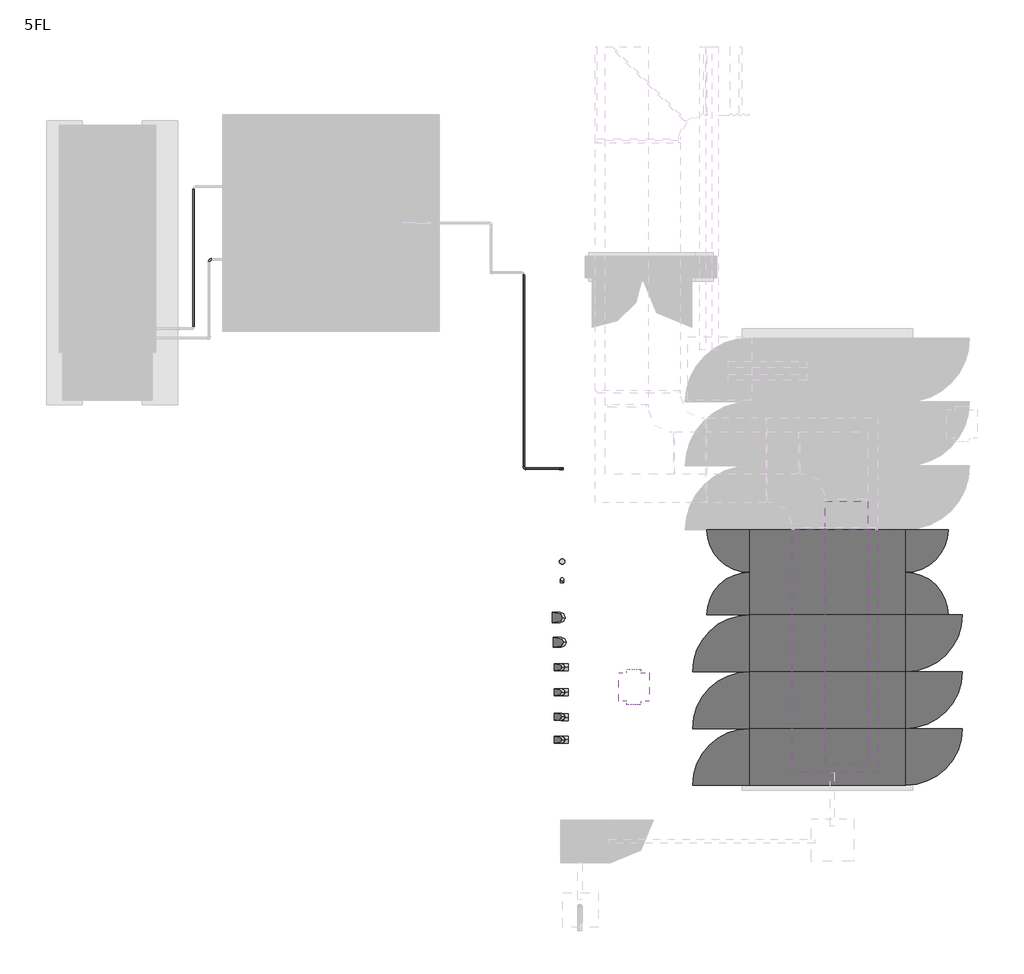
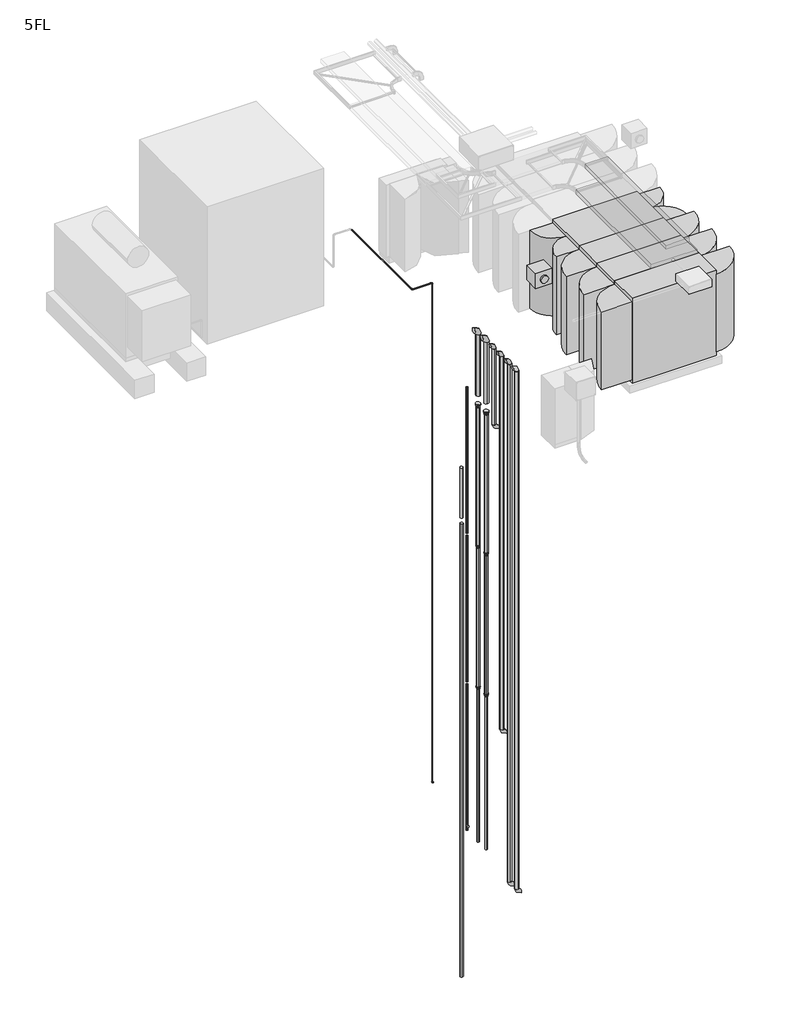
# One storey, part 2 of 3: 21 pipe fittings, 21 pipe segments, 4 proxies, 2 cable carrier segments, 1 unitary equipment element.
"""IFC4 building model written with IfcOpenShell, lengths in millimetres."""

from ifc_helpers import new_model, si_unit, point, frame, frame_2d, origin, place, context, project, spatial, polyline, circle_curve, trimmed, segment, composite_curve, outline, extrude, transform, mapped, element, save
from components import electrical_equipment_1f931304, electrical_equipment_307397fe, common_fe099fb8, common_de995b14, common_a5969855, common_364c500f, common_93091ae8, common_80912427, common_bebf707b, common_4825b033, common_ebbcb540, unitary_equipment_3_1500m3_h_19a96069

model = new_model("IFC4")

# Units and contexts
model_context = context("Model", 3, world=origin())
ifc_project = project(units=[si_unit("LENGTHUNIT", "METRE", prefix="MILLI")], contexts=[model_context])

# Site, building, storey
site = spatial("IfcSite", under=ifc_project)
building = spatial("IfcBuilding", under=site)
storey = spatial("IfcBuildingStorey", under=building, Name="5FL", Elevation=16400.0)

# Proxies
placement = place(None, origin())
electrical_equipment_shape = electrical_equipment_1f931304(model_context)
element("IfcBuildingElementProxy", 1, Name="30100_受変電設備_前後面保守形_コンデンサ盤 : 低圧コンデンサ盤", ObjectType="30100_受変電設備_前後面保守形_コンデンサ盤 : 低圧コンデンサ盤", at=placement, inside=storey, context=model_context, shape_type="MappedRepresentation", body=[
    mapped(electrical_equipment_shape, transform((29150.0424675, 10080.0, 16600.0), x_axis=(0.0, 1.0, 0.0), y_axis=(-1.0, 0.0, 0.0), z_axis=(0.0, 0.0, 1.0))),
])
element("IfcBuildingElementProxy", 2, Name="30400_受変電設備_前後面保守形_低圧電灯MCCB盤 : 6.6kV/210-105V", ObjectType="30400_受変電設備_前後面保守形_低圧電灯MCCB盤 : 6.6kV/210-105V", at=placement, inside=storey, context=model_context, shape_type="MappedRepresentation", body=[
    mapped(electrical_equipment_shape, transform((29150.0424675, 8480.0, 16600.0), x_axis=(0.0, 1.0, 0.0), y_axis=(-1.0, 0.0, 0.0), z_axis=(0.0, 0.0, 1.0))),
])
electrical_equipment_2_shape = electrical_equipment_307397fe(model_context)
element("IfcBuildingElementProxy", 3, Name="30400_受変電設備_前後面保守形_低圧動力盤_TR+MCCB : 6.6kV/210V_油入_150kVA", ObjectType="30400_受変電設備_前後面保守形_低圧動力盤_TR+MCCB : 6.6kV/210V_油入_150kVA", at=placement, inside=storey, context=model_context, shape_type="MappedRepresentation", body=[
    mapped(electrical_equipment_2_shape, transform((29150.0424675, 11080.0, 16600.0), x_axis=(0.0, 1.0, 0.0), y_axis=(-1.0, 0.0, 0.0), z_axis=(0.0, 0.0, 1.0))),
])
element("IfcBuildingElementProxy", 4, Name="30400_受変電設備_前後面保守形_低圧動力MCCB盤 : 6.6kV/210V", ObjectType="30400_受変電設備_前後面保守形_低圧動力MCCB盤 : 6.6kV/210V", at=placement, inside=storey, context=model_context, shape_type="MappedRepresentation", body=[
    mapped(electrical_equipment_shape, transform((29150.0424675, 9280.0, 16600.0), x_axis=(0.0, 1.0, 0.0), y_axis=(-1.0, 0.0, 0.0), z_axis=(0.0, 0.0, 1.0))),
])

# Cable carrier segments
element("IfcCableCarrierSegment", 5, ObjectType="03 強電_低圧", at=placement, inside=storey, context=model_context, shape_type="SweptSolid", body=[
    extrude(outline(polyline([(28657.1310514, 11676.820725), (29857.1310514, 11676.820725), (29857.1310514, 8260.0760728), (28657.1310514, 8260.0760728), (28657.1310514, 11676.820725)])), frame((0.0, 0.0, 19450.0), z_axis=(0.0, 0.0, 1.0), x_axis=(1.0, 0.0, 0.0)), (0.0, 0.0, 1.0), 100.0),
])
element("IfcCableCarrierSegment", 6, ObjectType="03 強電_低圧", at=placement, inside=storey, context=model_context, shape_type="SweptSolid", body=[
    extrude(outline(polyline([(29120.0, 12081.820725), (29720.0, 12081.820725), (29720.0, 8381.820725), (29120.0, 8381.820725), (29120.0, 12081.820725)])), frame((0.0, 0.0, 19750.0), z_axis=(0.0, 0.0, 1.0), x_axis=(1.0, 0.0, 0.0)), (0.0, 0.0, 1.0), 100.0),
])

# Pipe fittings
common_shape = common_fe099fb8(model_context)
element("IfcPipeFitting", 7, ObjectType="012_エルボ_冷媒管 : Common", at=placement, inside=storey, context=model_context, shape_type="MappedRepresentation", body=[
    mapped(common_shape, transform((25399.917665, 8722.3578511, 17600.0), x_axis=(0.0, 0.0, 1.0), y_axis=(-1.0, 0.0, 0.0), z_axis=(0.0, -1.0, 0.0))),
])
element("IfcPipeFitting", 8, ObjectType="012_エルボ_冷媒管 : Common", at=placement, inside=storey, context=model_context, shape_type="MappedRepresentation", body=[
    mapped(common_shape, transform((25399.917665, 9743.0325009, 17600.0), x_axis=(1.0, 0.0, 0.0), y_axis=(0.0, 0.0, -1.0), z_axis=(0.0, 1.0, 0.0))),
])
element("IfcPipeFitting", 9, ObjectType="012_エルボ_冷媒管 : Common", at=placement, inside=storey, context=model_context, shape_type="MappedRepresentation", body=[
    mapped(common_shape, transform((25399.917665, 9393.0325009, 17600.0), x_axis=(1.0, 0.0, 0.0), y_axis=(0.0, 0.0, -1.0), z_axis=(0.0, 1.0, 0.0))),
])
element("IfcPipeFitting", 10, ObjectType="012_エルボ_冷媒管 : Common", at=placement, inside=storey, context=model_context, shape_type="MappedRepresentation", body=[
    mapped(common_shape, transform((25399.917665, 8722.3578511, 3100.0001139), x_axis=(0.0, 0.0, -1.0), y_axis=(1.0, 0.0, 0.0), z_axis=(0.0, -1.0, 0.0))),
])
element("IfcPipeFitting", 11, ObjectType="012_エルボ_冷媒管 : Common", at=placement, inside=storey, context=model_context, shape_type="MappedRepresentation", body=[
    mapped(common_shape, transform((25399.917665, 9743.0325009, 15300.0), x_axis=(0.0, 0.0, -1.0), y_axis=(1.0, 0.0, 0.0), z_axis=(0.0, -1.0, 0.0))),
])
element("IfcPipeFitting", 12, ObjectType="012_エルボ_冷媒管 : Common", at=placement, inside=storey, context=model_context, shape_type="MappedRepresentation", body=[
    mapped(common_shape, transform((25399.917665, 9393.0325009, 7100.0), x_axis=(0.0, 0.0, -1.0), y_axis=(1.0, 0.0, 0.0), z_axis=(0.0, -1.0, 0.0))),
])
common_2_shape = common_de995b14(model_context)
element("IfcPipeFitting", 13, ObjectType="041_レジューサ : Common", at=placement, inside=storey, context=model_context, shape_type="MappedRepresentation", body=[
    mapped(common_2_shape, transform((25399.917665, 10093.0325009, 7750.0), x_axis=(0.0, 0.0, -1.0), y_axis=(0.0, 1.0, 0.0), z_axis=(1.0, 0.0, 0.0))),
])
element("IfcPipeFitting", 14, ObjectType="041_レジューサ : Common", at=placement, inside=storey, context=model_context, shape_type="MappedRepresentation", body=[
    mapped(common_2_shape, transform((25387.5087141, 10443.0325009, 7750.0), x_axis=(0.0, 0.0, -1.0), y_axis=(0.0, 1.0, 0.0), z_axis=(1.0, 0.0, 0.0))),
])
common_3_shape = common_a5969855(model_context)
element("IfcPipeFitting", 15, ObjectType="011_エルボ : Common", at=placement, inside=storey, context=model_context, shape_type="MappedRepresentation", body=[
    mapped(common_3_shape, transform((25399.917665, 10093.0325009, 17600.0), x_axis=(1.0, 0.0, 0.0), y_axis=(0.0, 0.0, -1.0), z_axis=(0.0, 1.0, 0.0))),
])
element("IfcPipeFitting", 16, ObjectType="011_エルボ : Common", at=placement, inside=storey, context=model_context, shape_type="MappedRepresentation", body=[
    mapped(common_3_shape, transform((25387.5087141, 10443.0325009, 17600.0), x_axis=(1.0, 0.0, 0.0), y_axis=(0.0, 0.0, -1.0), z_axis=(0.0, 1.0, 0.0))),
])
common_4_shape = common_364c500f(model_context)
element("IfcPipeFitting", 17, ObjectType="041_レジューサ : Common", at=placement, inside=storey, context=model_context, shape_type="MappedRepresentation", body=[
    mapped(common_4_shape, transform((25399.917665, 10093.0325009, 11650.0), x_axis=(0.0, 0.0, -1.0), y_axis=(0.0, 1.0, 0.0), z_axis=(1.0, 0.0, 0.0))),
])
element("IfcPipeFitting", 18, ObjectType="041_レジューサ : Common", at=placement, inside=storey, context=model_context, shape_type="MappedRepresentation", body=[
    mapped(common_4_shape, transform((25387.5087141, 10443.0325009, 11650.0), x_axis=(0.0, 0.0, -1.0), y_axis=(0.0, 1.0, 0.0), z_axis=(1.0, 0.0, 0.0))),
])
common_5_shape = common_93091ae8(model_context)
element("IfcPipeFitting", 19, ObjectType="041_レジューサ : Common", at=placement, inside=storey, context=model_context, shape_type="MappedRepresentation", body=[
    mapped(common_5_shape, transform((25399.917665, 10093.0325009, 15550.0), x_axis=(0.0, 0.0, -1.0), y_axis=(0.0, 1.0, 0.0), z_axis=(1.0, 0.0, 0.0))),
])
element("IfcPipeFitting", 20, ObjectType="041_レジューサ : Common", at=placement, inside=storey, context=model_context, shape_type="MappedRepresentation", body=[
    mapped(common_5_shape, transform((25387.5087141, 10443.0325009, 15550.0), x_axis=(0.0, 0.0, -1.0), y_axis=(0.0, 1.0, 0.0), z_axis=(1.0, 0.0, 0.0))),
])
common_6_shape = common_80912427(model_context)
element("IfcPipeFitting", 21, ObjectType="012_エルボ_冷媒管 : Common", at=placement, inside=storey, context=model_context, shape_type="MappedRepresentation", body=[
    mapped(common_6_shape, transform((25400.7840476, 9043.0325009, 17599.9999385), x_axis=(1.0, 0.0, 0.0), y_axis=(0.0, 0.0, -1.0), z_axis=(0.0, 1.0, 0.0))),
])
common_7_shape = common_bebf707b(model_context)
element("IfcPipeFitting", 22, ObjectType="011_エルボ : Common", at=placement, inside=storey, context=model_context, shape_type="MappedRepresentation", body=[
    mapped(common_7_shape, transform((25400.0, 12540.4881997, 17600.0), x_axis=(0.0, 0.0, 1.0), y_axis=(-1.0, 0.0, 0.0), z_axis=(0.0, -1.0, 0.0))),
])
element("IfcPipeFitting", 23, ObjectType="011_エルボ : Common", at=placement, inside=storey, context=model_context, shape_type="MappedRepresentation", body=[
    mapped(common_7_shape, transform((20440.0, 15487.5, 16700.0), x_axis=(-1.0, 0.0, 0.0), y_axis=(0.0, -1.0, 0.0), z_axis=(0.0, 0.0, 1.0))),
])
element("IfcPipeFitting", 24, ObjectType="011_エルボ : Common", at=placement, inside=storey, context=model_context, shape_type="MappedRepresentation", body=[
    mapped(common_7_shape, transform((25400.0, 12540.4881997, 3800.0), x_axis=(0.0, 0.0, -1.0), y_axis=(1.0, 0.0, 0.0), z_axis=(0.0, -1.0, 0.0))),
])
element("IfcPipeFitting", 25, ObjectType="011_エルボ : Common", at=placement, inside=storey, context=model_context, shape_type="MappedRepresentation", body=[
    mapped(common_7_shape, transform((24873.2280535, 12540.4881997, 17600.0), x_axis=(0.0, -1.0, 0.0), y_axis=(1.0, 0.0, 0.0), z_axis=(0.0, 0.0, 1.0))),
])
common_8_shape = common_4825b033(model_context)
element("IfcPipeFitting", 26, ObjectType="012_エルボ_冷媒管 : Common", at=placement, inside=storey, context=model_context, shape_type="MappedRepresentation", body=[
    mapped(common_8_shape, transform((25399.82734, 9043.0325009, 3100.0024267), x_axis=(-6.467883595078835e-05, 0.0, -0.9999999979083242), y_axis=(0.9999999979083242, 0.0, -6.467883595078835e-05), z_axis=(0.0, -1.0, 0.0))),
])
common_9_shape = common_ebbcb540(model_context)
element("IfcPipeFitting", 27, ObjectType="011_エルボ : Common", at=placement, inside=storey, context=model_context, shape_type="MappedRepresentation", body=[
    mapped(common_9_shape, transform((25411.7799665, 10983.0325009, 3550.0), x_axis=(0.0, 0.0, -1.0), y_axis=(0.0, -1.0, 0.0), z_axis=(-1.0, 0.0, 0.0))),
])

# Pipe segments
element("IfcPipeSegment", 28, ObjectType="00_供給", at=placement, inside=storey, context=model_context, shape_type="SweptSolid", body=[
    extrude(outline(composite_curve([segment(trimmed(circle_curve(frame_2d((25399.917665, 10093.0325009)), 30.25), [point((25369.667665, 10093.0325009))], [point((25399.917665, 10123.2825009))], False, "CARTESIAN"), True, "CONTINUOUS"), segment(trimmed(circle_curve(frame_2d((25399.917665, 10093.0325009)), 30.25), [point((25399.917665, 10123.2825009))], [point((25430.167665, 10093.0325009))], False, "CARTESIAN"), True, "CONTINUOUS"), segment(trimmed(circle_curve(frame_2d((25399.917665, 10093.0325009)), 30.25), [point((25430.167665, 10093.0325009))], [point((25399.917665, 10062.7825009))], False, "CARTESIAN"), True, "CONTINUOUS"), segment(trimmed(circle_curve(frame_2d((25399.917665, 10093.0325009)), 30.25), [point((25399.917665, 10062.7825009))], [point((25369.667665, 10093.0325009))], False, "CARTESIAN"), True, "CONTINUOUS")], self_intersect=False)), frame((0.0, 0.0, 3458.0), z_axis=(0.0, 0.0, 1.0), x_axis=(1.0, 0.0, 0.0)), (0.0, 0.0, 1.0), 4227.0),
])
element("IfcPipeSegment", 29, ObjectType="00_供給", at=placement, inside=storey, context=model_context, shape_type="SweptSolid", body=[
    extrude(outline(composite_curve([segment(trimmed(circle_curve(frame_2d((25387.5087141, 10443.0325009)), 30.25), [point((25357.2587141, 10443.0325009))], [point((25387.5087141, 10473.2825009))], False, "CARTESIAN"), True, "CONTINUOUS"), segment(trimmed(circle_curve(frame_2d((25387.5087141, 10443.0325009)), 30.25), [point((25387.5087141, 10473.2825009))], [point((25417.7587141, 10443.0325009))], False, "CARTESIAN"), True, "CONTINUOUS"), segment(trimmed(circle_curve(frame_2d((25387.5087141, 10443.0325009)), 30.25), [point((25417.7587141, 10443.0325009))], [point((25387.5087141, 10412.7825009))], False, "CARTESIAN"), True, "CONTINUOUS"), segment(trimmed(circle_curve(frame_2d((25387.5087141, 10443.0325009)), 30.25), [point((25387.5087141, 10412.7825009))], [point((25357.2587141, 10443.0325009))], False, "CARTESIAN"), True, "CONTINUOUS")], self_intersect=False)), frame((0.0, 0.0, 3458.0), z_axis=(0.0, 0.0, 1.0), x_axis=(1.0, 0.0, 0.0)), (0.0, 0.0, 1.0), 4227.0),
])
element("IfcPipeSegment", 30, ObjectType="00_供給", at=placement, inside=storey, context=model_context, shape_type="SweptSolid", body=[
    extrude(outline(composite_curve([segment(trimmed(circle_curve(frame_2d((25399.917665, 10093.0325009)), 38.15), [point((25361.767665, 10093.0325009))], [point((25399.917665, 10131.1825009))], False, "CARTESIAN"), True, "CONTINUOUS"), segment(trimmed(circle_curve(frame_2d((25399.917665, 10093.0325009)), 38.15), [point((25399.917665, 10131.1825009))], [point((25438.067665, 10093.0325009))], False, "CARTESIAN"), True, "CONTINUOUS"), segment(trimmed(circle_curve(frame_2d((25399.917665, 10093.0325009)), 38.15), [point((25438.067665, 10093.0325009))], [point((25399.917665, 10054.8825009))], False, "CARTESIAN"), True, "CONTINUOUS"), segment(trimmed(circle_curve(frame_2d((25399.917665, 10093.0325009)), 38.15), [point((25399.917665, 10054.8825009))], [point((25361.767665, 10093.0325009))], False, "CARTESIAN"), True, "CONTINUOUS")], self_intersect=False)), frame((0.0, 0.0, 7750.0), z_axis=(0.0, 0.0, 1.0), x_axis=(1.0, 0.0, 0.0)), (0.0, 0.0, 1.0), 3828.0),
])
element("IfcPipeSegment", 31, ObjectType="00_供給", at=placement, inside=storey, context=model_context, shape_type="SweptSolid", body=[
    extrude(outline(composite_curve([segment(trimmed(circle_curve(frame_2d((25387.5087141, 10443.0325009)), 38.15), [point((25349.3587141, 10443.0325009))], [point((25387.5087141, 10481.1825009))], False, "CARTESIAN"), True, "CONTINUOUS"), segment(trimmed(circle_curve(frame_2d((25387.5087141, 10443.0325009)), 38.15), [point((25387.5087141, 10481.1825009))], [point((25425.6587141, 10443.0325009))], False, "CARTESIAN"), True, "CONTINUOUS"), segment(trimmed(circle_curve(frame_2d((25387.5087141, 10443.0325009)), 38.15), [point((25425.6587141, 10443.0325009))], [point((25387.5087141, 10404.8825009))], False, "CARTESIAN"), True, "CONTINUOUS"), segment(trimmed(circle_curve(frame_2d((25387.5087141, 10443.0325009)), 38.15), [point((25387.5087141, 10404.8825009))], [point((25349.3587141, 10443.0325009))], False, "CARTESIAN"), True, "CONTINUOUS")], self_intersect=False)), frame((0.0, 0.0, 7750.0), z_axis=(0.0, 0.0, 1.0), x_axis=(1.0, 0.0, 0.0)), (0.0, 0.0, 1.0), 3828.0),
])
element("IfcPipeSegment", 32, ObjectType="00_供給", at=placement, inside=storey, context=model_context, shape_type="SweptSolid", body=[
    extrude(outline(composite_curve([segment(trimmed(circle_curve(frame_2d((25399.917665, 10093.0325009)), 44.55), [point((25355.367665, 10093.0325009))], [point((25399.917665, 10137.5825009))], False, "CARTESIAN"), True, "CONTINUOUS"), segment(trimmed(circle_curve(frame_2d((25399.917665, 10093.0325009)), 44.55), [point((25399.917665, 10137.5825009))], [point((25444.467665, 10093.0325009))], False, "CARTESIAN"), True, "CONTINUOUS"), segment(trimmed(circle_curve(frame_2d((25399.917665, 10093.0325009)), 44.55), [point((25444.467665, 10093.0325009))], [point((25399.917665, 10048.4825009))], False, "CARTESIAN"), True, "CONTINUOUS"), segment(trimmed(circle_curve(frame_2d((25399.917665, 10093.0325009)), 44.55), [point((25399.917665, 10048.4825009))], [point((25355.367665, 10093.0325009))], False, "CARTESIAN"), True, "CONTINUOUS")], self_intersect=False)), frame((0.0, 0.0, 11650.0), z_axis=(0.0, 0.0, 1.0), x_axis=(1.0, 0.0, 0.0)), (0.0, 0.0, 1.0), 3815.0),
])
element("IfcPipeSegment", 33, ObjectType="00_供給", at=placement, inside=storey, context=model_context, shape_type="SweptSolid", body=[
    extrude(outline(composite_curve([segment(trimmed(circle_curve(frame_2d((25387.5087141, 10443.0325009)), 44.55), [point((25342.9587141, 10443.0325009))], [point((25387.5087141, 10487.5825009))], False, "CARTESIAN"), True, "CONTINUOUS"), segment(trimmed(circle_curve(frame_2d((25387.5087141, 10443.0325009)), 44.55), [point((25387.5087141, 10487.5825009))], [point((25432.0587141, 10443.0325009))], False, "CARTESIAN"), True, "CONTINUOUS"), segment(trimmed(circle_curve(frame_2d((25387.5087141, 10443.0325009)), 44.55), [point((25432.0587141, 10443.0325009))], [point((25387.5087141, 10398.4825009))], False, "CARTESIAN"), True, "CONTINUOUS"), segment(trimmed(circle_curve(frame_2d((25387.5087141, 10443.0325009)), 44.55), [point((25387.5087141, 10398.4825009))], [point((25342.9587141, 10443.0325009))], False, "CARTESIAN"), True, "CONTINUOUS")], self_intersect=False)), frame((0.0, 0.0, 11650.0), z_axis=(0.0, 0.0, 1.0), x_axis=(1.0, 0.0, 0.0)), (0.0, 0.0, 1.0), 3815.0),
])
element("IfcPipeSegment", 34, ObjectType="00_冷媒", at=placement, inside=storey, context=model_context, shape_type="SweptSolid", body=[
    extrude(outline(composite_curve([segment(trimmed(circle_curve(frame_2d((25399.917665, 9743.0325009)), 50.0), [point((25349.917665, 9743.0325009))], [point((25399.917665, 9793.0325009))], False, "CARTESIAN"), True, "CONTINUOUS"), segment(trimmed(circle_curve(frame_2d((25399.917665, 9743.0325009)), 50.0), [point((25399.917665, 9793.0325009))], [point((25449.917665, 9743.0325009))], False, "CARTESIAN"), True, "CONTINUOUS"), segment(trimmed(circle_curve(frame_2d((25399.917665, 9743.0325009)), 50.0), [point((25449.917665, 9743.0325009))], [point((25399.917665, 9693.0325009))], False, "CARTESIAN"), True, "CONTINUOUS"), segment(trimmed(circle_curve(frame_2d((25399.917665, 9743.0325009)), 50.0), [point((25399.917665, 9693.0325009))], [point((25349.917665, 9743.0325009))], False, "CARTESIAN"), True, "CONTINUOUS")], self_intersect=False)), frame((0.0, 0.0, 15402.0), z_axis=(0.0, 0.0, 1.0), x_axis=(1.0, 0.0, 0.0)), (0.0, 0.0, 1.0), 2096.0),
])
element("IfcPipeSegment", 35, ObjectType="00_供給", at=placement, inside=storey, context=model_context, shape_type="SweptSolid", body=[
    extrude(outline(composite_curve([segment(trimmed(circle_curve(frame_2d((25400.0, 12540.4881997)), 10.85), [point((25410.85, 12540.4881997))], [point((25400.0, 12529.6381997))], False, "CARTESIAN"), True, "CONTINUOUS"), segment(trimmed(circle_curve(frame_2d((25400.0, 12540.4881997)), 10.85), [point((25400.0, 12529.6381997))], [point((25389.15, 12540.4881997))], False, "CARTESIAN"), True, "CONTINUOUS"), segment(trimmed(circle_curve(frame_2d((25400.0, 12540.4881997)), 10.85), [point((25389.15, 12540.4881997))], [point((25400.0, 12551.3381997))], False, "CARTESIAN"), True, "CONTINUOUS"), segment(trimmed(circle_curve(frame_2d((25400.0, 12540.4881997)), 10.85), [point((25400.0, 12551.3381997))], [point((25410.85, 12540.4881997))], False, "CARTESIAN"), True, "CONTINUOUS")], self_intersect=False)), frame((0.0, 0.0, 3827.0), z_axis=(0.0, 0.0, 1.0), x_axis=(1.0, 0.0, 0.0)), (0.0, 0.0, 1.0), 13746.0),
])
element("IfcPipeSegment", 36, ObjectType="00_供給", at=placement, inside=storey, context=model_context, shape_type="SweptSolid", body=[
    extrude(outline(composite_curve([segment(trimmed(circle_curve(frame_2d((16700.0, 20222.6030474)), 10.85), [point((16700.0, 20233.4530474))], [point((16710.85, 20222.6030474))], False, "CARTESIAN"), True, "CONTINUOUS"), segment(trimmed(circle_curve(frame_2d((16700.0, 20222.6030474)), 10.85), [point((16710.85, 20222.6030474))], [point((16700.0, 20211.7530474))], False, "CARTESIAN"), True, "CONTINUOUS"), segment(trimmed(circle_curve(frame_2d((16700.0, 20222.6030474)), 10.85), [point((16700.0, 20211.7530474))], [point((16689.15, 20222.6030474))], False, "CARTESIAN"), True, "CONTINUOUS"), segment(trimmed(circle_curve(frame_2d((16700.0, 20222.6030474)), 10.85), [point((16689.15, 20222.6030474))], [point((16700.0, 20233.4530474))], False, "CARTESIAN"), True, "CONTINUOUS")], self_intersect=False)), frame((0.0, 14539.5361303, 0.0), z_axis=(0.0, 1.0, 0.0), x_axis=(0.0, 0.0, 1.0)), (0.0, 0.0, 1.0), 1945.9638697),
])
element("IfcPipeSegment", 37, ObjectType="00_供給", at=placement, inside=storey, context=model_context, shape_type="SweptSolid", body=[
    extrude(outline(composite_curve([segment(trimmed(circle_curve(frame_2d((25411.7799665, 10983.0325009)), 21.35), [point((25390.4299665, 10983.0325009))], [point((25411.7799665, 11004.3825009))], False, "CARTESIAN"), True, "CONTINUOUS"), segment(trimmed(circle_curve(frame_2d((25411.7799665, 10983.0325009)), 21.35), [point((25411.7799665, 11004.3825009))], [point((25433.1299665, 10983.0325009))], False, "CARTESIAN"), True, "CONTINUOUS"), segment(trimmed(circle_curve(frame_2d((25411.7799665, 10983.0325009)), 21.35), [point((25433.1299665, 10983.0325009))], [point((25411.7799665, 10961.6825009))], False, "CARTESIAN"), True, "CONTINUOUS"), segment(trimmed(circle_curve(frame_2d((25411.7799665, 10983.0325009)), 21.35), [point((25411.7799665, 10961.6825009))], [point((25390.4299665, 10983.0325009))], False, "CARTESIAN"), True, "CONTINUOUS")], self_intersect=False)), frame((0.0, 0.0, 11638.0), z_axis=(0.0, 0.0, 1.0), x_axis=(1.0, 0.0, 0.0)), (0.0, 0.0, 1.0), 4024.0),
])
element("IfcPipeSegment", 38, ObjectType="00_供給", at=placement, inside=storey, context=model_context, shape_type="SweptSolid", body=[
    extrude(outline(composite_curve([segment(trimmed(circle_curve(frame_2d((12540.4881997, 17600.0)), 10.85), [point((12551.3381997, 17600.0))], [point((12540.4881997, 17589.15))], False, "CARTESIAN"), True, "CONTINUOUS"), segment(trimmed(circle_curve(frame_2d((12540.4881997, 17600.0)), 10.85), [point((12540.4881997, 17589.15))], [point((12529.6381997, 17600.0))], False, "CARTESIAN"), True, "CONTINUOUS"), segment(trimmed(circle_curve(frame_2d((12540.4881997, 17600.0)), 10.85), [point((12529.6381997, 17600.0))], [point((12540.4881997, 17610.85))], False, "CARTESIAN"), True, "CONTINUOUS"), segment(trimmed(circle_curve(frame_2d((12540.4881997, 17600.0)), 10.85), [point((12540.4881997, 17610.85))], [point((12551.3381997, 17600.0))], False, "CARTESIAN"), True, "CONTINUOUS")], self_intersect=False)), frame((24900.2280535, 0.0, 0.0), z_axis=(1.0, 0.0, 0.0), x_axis=(0.0, 1.0, 0.0)), (0.0, 0.0, 1.0), 472.7719465),
])
element("IfcPipeSegment", 39, ObjectType="00_供給", at=placement, inside=storey, context=model_context, shape_type="SweptSolid", body=[
    extrude(outline(composite_curve([segment(trimmed(circle_curve(frame_2d((17600.0, 24873.2280535)), 10.85), [point((17600.0, 24884.0780535))], [point((17610.85, 24873.2280535))], False, "CARTESIAN"), True, "CONTINUOUS"), segment(trimmed(circle_curve(frame_2d((17600.0, 24873.2280535)), 10.85), [point((17610.85, 24873.2280535))], [point((17600.0, 24862.3780535))], False, "CARTESIAN"), True, "CONTINUOUS"), segment(trimmed(circle_curve(frame_2d((17600.0, 24873.2280535)), 10.85), [point((17600.0, 24862.3780535))], [point((17589.15, 24873.2280535))], False, "CARTESIAN"), True, "CONTINUOUS"), segment(trimmed(circle_curve(frame_2d((17600.0, 24873.2280535)), 10.85), [point((17589.15, 24873.2280535))], [point((17600.0, 24884.0780535))], False, "CARTESIAN"), True, "CONTINUOUS")], self_intersect=False)), frame((0.0, 12567.4881997, 0.0), z_axis=(0.0, 1.0, 0.0), x_axis=(0.0, 0.0, 1.0)), (0.0, 0.0, 1.0), 2705.5118003),
])
element("IfcPipeSegment", 40, ObjectType="00_供給", at=placement, inside=storey, context=model_context, shape_type="SweptSolid", body=[
    extrude(outline(composite_curve([segment(trimmed(circle_curve(frame_2d((25399.917665, 10093.0325009)), 57.15), [point((25457.067665, 10093.0325009))], [point((25399.917665, 10035.8825009))], False, "CARTESIAN"), True, "CONTINUOUS"), segment(trimmed(circle_curve(frame_2d((25399.917665, 10093.0325009)), 57.15), [point((25399.917665, 10035.8825009))], [point((25342.767665, 10093.0325009))], False, "CARTESIAN"), True, "CONTINUOUS"), segment(trimmed(circle_curve(frame_2d((25399.917665, 10093.0325009)), 57.15), [point((25342.767665, 10093.0325009))], [point((25399.917665, 10150.1825009))], False, "CARTESIAN"), True, "CONTINUOUS"), segment(trimmed(circle_curve(frame_2d((25399.917665, 10093.0325009)), 57.15), [point((25399.917665, 10150.1825009))], [point((25457.067665, 10093.0325009))], False, "CARTESIAN"), True, "CONTINUOUS")], self_intersect=False)), frame((0.0, 0.0, 15778.0), z_axis=(0.0, 0.0, 1.0), x_axis=(1.0, 0.0, 0.0)), (0.0, 0.0, 1.0), 1710.0),
])
element("IfcPipeSegment", 41, ObjectType="00_供給", at=placement, inside=storey, context=model_context, shape_type="SweptSolid", body=[
    extrude(outline(composite_curve([segment(trimmed(circle_curve(frame_2d((25387.5087141, 10443.0325009)), 57.15), [point((25444.6587141, 10443.0325009))], [point((25387.5087141, 10385.8825009))], False, "CARTESIAN"), True, "CONTINUOUS"), segment(trimmed(circle_curve(frame_2d((25387.5087141, 10443.0325009)), 57.15), [point((25387.5087141, 10385.8825009))], [point((25330.3587141, 10443.0325009))], False, "CARTESIAN"), True, "CONTINUOUS"), segment(trimmed(circle_curve(frame_2d((25387.5087141, 10443.0325009)), 57.15), [point((25330.3587141, 10443.0325009))], [point((25387.5087141, 10500.1825009))], False, "CARTESIAN"), True, "CONTINUOUS"), segment(trimmed(circle_curve(frame_2d((25387.5087141, 10443.0325009)), 57.15), [point((25387.5087141, 10500.1825009))], [point((25444.6587141, 10443.0325009))], False, "CARTESIAN"), True, "CONTINUOUS")], self_intersect=False)), frame((0.0, 0.0, 15778.0), z_axis=(0.0, 0.0, 1.0), x_axis=(1.0, 0.0, 0.0)), (0.0, 0.0, 1.0), 1710.0),
])
element("IfcPipeSegment", 42, ObjectType="00_排水", at=placement, inside=storey, context=model_context, shape_type="SweptSolid", body=[
    extrude(outline(composite_curve([segment(trimmed(circle_curve(frame_2d((25411.7799665, 11233.0325009)), 38.15), [point((25449.9299665, 11233.0325009))], [point((25411.7799665, 11194.8825009))], False, "CARTESIAN"), True, "CONTINUOUS"), segment(trimmed(circle_curve(frame_2d((25411.7799665, 11233.0325009)), 38.15), [point((25411.7799665, 11194.8825009))], [point((25373.6299665, 11233.0325009))], False, "CARTESIAN"), True, "CONTINUOUS"), segment(trimmed(circle_curve(frame_2d((25411.7799665, 11233.0325009)), 38.15), [point((25373.6299665, 11233.0325009))], [point((25411.7799665, 11271.1825009))], False, "CARTESIAN"), True, "CONTINUOUS"), segment(trimmed(circle_curve(frame_2d((25411.7799665, 11233.0325009)), 38.15), [point((25411.7799665, 11271.1825009))], [point((25449.9299665, 11233.0325009))], False, "CARTESIAN"), True, "CONTINUOUS")], self_intersect=False)), frame((0.0, 0.0, -751.0), z_axis=(0.0, 0.0, 1.0), x_axis=(1.0, 0.0, 0.0)), (0.0, 0.0, 1.0), 12500.0),
])
element("IfcPipeSegment", 43, ObjectType="00_排水", at=placement, inside=storey, context=model_context, shape_type="SweptSolid", body=[
    extrude(outline(composite_curve([segment(trimmed(circle_curve(frame_2d((25411.7799665, 11233.0325009)), 38.15), [point((25449.9299665, 11233.0325009))], [point((25411.7799665, 11194.8825009))], False, "CARTESIAN"), True, "CONTINUOUS"), segment(trimmed(circle_curve(frame_2d((25411.7799665, 11233.0325009)), 38.15), [point((25411.7799665, 11194.8825009))], [point((25373.6299665, 11233.0325009))], False, "CARTESIAN"), True, "CONTINUOUS"), segment(trimmed(circle_curve(frame_2d((25411.7799665, 11233.0325009)), 38.15), [point((25373.6299665, 11233.0325009))], [point((25411.7799665, 11271.1825009))], False, "CARTESIAN"), True, "CONTINUOUS"), segment(trimmed(circle_curve(frame_2d((25411.7799665, 11233.0325009)), 38.15), [point((25411.7799665, 11271.1825009))], [point((25449.9299665, 11233.0325009))], False, "CARTESIAN"), True, "CONTINUOUS")], self_intersect=False)), frame((0.0, 0.0, 11912.0), z_axis=(0.0, 0.0, 1.0), x_axis=(1.0, 0.0, 0.0)), (0.0, 0.0, 1.0), 1388.0),
])
element("IfcPipeSegment", 44, ObjectType="00_供給", at=placement, inside=storey, context=model_context, shape_type="SweptSolid", body=[
    extrude(outline(composite_curve([segment(trimmed(circle_curve(frame_2d((25411.7799665, 10983.0325009)), 21.35), [point((25390.4299665, 10983.0325009))], [point((25411.7799665, 11004.3825009))], False, "CARTESIAN"), True, "CONTINUOUS"), segment(trimmed(circle_curve(frame_2d((25411.7799665, 10983.0325009)), 21.35), [point((25411.7799665, 11004.3825009))], [point((25433.1299665, 10983.0325009))], False, "CARTESIAN"), True, "CONTINUOUS"), segment(trimmed(circle_curve(frame_2d((25411.7799665, 10983.0325009)), 21.35), [point((25433.1299665, 10983.0325009))], [point((25411.7799665, 10961.6825009))], False, "CARTESIAN"), True, "CONTINUOUS"), segment(trimmed(circle_curve(frame_2d((25411.7799665, 10983.0325009)), 21.35), [point((25411.7799665, 10961.6825009))], [point((25390.4299665, 10983.0325009))], False, "CARTESIAN"), True, "CONTINUOUS")], self_intersect=False)), frame((0.0, 0.0, 7538.0), z_axis=(0.0, 0.0, 1.0), x_axis=(1.0, 0.0, 0.0)), (0.0, 0.0, 1.0), 4024.0),
])
element("IfcPipeSegment", 45, ObjectType="00_供給", at=placement, inside=storey, context=model_context, shape_type="SweptSolid", body=[
    extrude(outline(composite_curve([segment(trimmed(circle_curve(frame_2d((25411.7799665, 10983.0325009)), 21.35), [point((25390.4299665, 10983.0325009))], [point((25411.7799665, 11004.3825009))], False, "CARTESIAN"), True, "CONTINUOUS"), segment(trimmed(circle_curve(frame_2d((25411.7799665, 10983.0325009)), 21.35), [point((25411.7799665, 11004.3825009))], [point((25433.1299665, 10983.0325009))], False, "CARTESIAN"), True, "CONTINUOUS"), segment(trimmed(circle_curve(frame_2d((25411.7799665, 10983.0325009)), 21.35), [point((25433.1299665, 10983.0325009))], [point((25411.7799665, 10961.6825009))], False, "CARTESIAN"), True, "CONTINUOUS"), segment(trimmed(circle_curve(frame_2d((25411.7799665, 10983.0325009)), 21.35), [point((25411.7799665, 10961.6825009))], [point((25390.4299665, 10983.0325009))], False, "CARTESIAN"), True, "CONTINUOUS")], self_intersect=False)), frame((0.0, 0.0, 3438.0), z_axis=(0.0, 0.0, 1.0), x_axis=(1.0, 0.0, 0.0)), (0.0, 0.0, 1.0), 4024.0),
])
element("IfcPipeSegment", 46, ObjectType="00_冷媒", at=placement, inside=storey, context=model_context, shape_type="SweptSolid", body=[
    extrude(outline(composite_curve([segment(trimmed(circle_curve(frame_2d((0.0, 50.0)), 50.0), [point((-50.0, 50.0))], [point((0.0, 100.0))], False, "CARTESIAN"), True, "CONTINUOUS"), segment(trimmed(circle_curve(frame_2d((0.0, 50.0)), 50.0), [point((0.0, 100.0))], [point((50.0, 50.0))], False, "CARTESIAN"), True, "CONTINUOUS"), segment(trimmed(circle_curve(frame_2d((0.0, 50.0)), 50.0), [point((50.0, 50.0))], [point((0.0, 0.0))], False, "CARTESIAN"), True, "CONTINUOUS"), segment(trimmed(circle_curve(frame_2d((0.0, 50.0)), 50.0), [point((0.0, 0.0))], [point((-50.0, 50.0))], False, "CARTESIAN"), True, "CONTINUOUS")], self_intersect=False)), frame((25399.8339372, 8993.0325009, 3202.0024265), z_axis=(6.599522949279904e-05, 0.0, 0.9999999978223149), x_axis=(0.9999999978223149, 0.0, -6.599522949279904e-05)), (0.0, 0.0, 1.0), 14295.9975433),
])
element("IfcPipeSegment", 47, ObjectType="00_冷媒", at=placement, inside=storey, context=model_context, shape_type="SweptSolid", body=[
    extrude(outline(composite_curve([segment(trimmed(circle_curve(frame_2d((25399.917665, 8722.3578511)), 50.0), [point((25349.917665, 8722.3578511))], [point((25399.917665, 8772.3578511))], False, "CARTESIAN"), True, "CONTINUOUS"), segment(trimmed(circle_curve(frame_2d((25399.917665, 8722.3578511)), 50.0), [point((25399.917665, 8772.3578511))], [point((25449.917665, 8722.3578511))], False, "CARTESIAN"), True, "CONTINUOUS"), segment(trimmed(circle_curve(frame_2d((25399.917665, 8722.3578511)), 50.0), [point((25449.917665, 8722.3578511))], [point((25399.917665, 8672.3578511))], False, "CARTESIAN"), True, "CONTINUOUS"), segment(trimmed(circle_curve(frame_2d((25399.917665, 8722.3578511)), 50.0), [point((25399.917665, 8672.3578511))], [point((25349.917665, 8722.3578511))], False, "CARTESIAN"), True, "CONTINUOUS")], self_intersect=False)), frame((0.0, 0.0, 3202.0001139), z_axis=(0.0, 0.0, 1.0), x_axis=(1.0, 0.0, 0.0)), (0.0, 0.0, 1.0), 14295.9998861),
])
element("IfcPipeSegment", 48, ObjectType="00_冷媒", at=placement, inside=storey, context=model_context, shape_type="SweptSolid", body=[
    extrude(outline(composite_curve([segment(trimmed(circle_curve(frame_2d((25399.917665, 9393.0325009)), 50.0), [point((25349.917665, 9393.0325009))], [point((25399.917665, 9443.0325009))], False, "CARTESIAN"), True, "CONTINUOUS"), segment(trimmed(circle_curve(frame_2d((25399.917665, 9393.0325009)), 50.0), [point((25399.917665, 9443.0325009))], [point((25449.917665, 9393.0325009))], False, "CARTESIAN"), True, "CONTINUOUS"), segment(trimmed(circle_curve(frame_2d((25399.917665, 9393.0325009)), 50.0), [point((25449.917665, 9393.0325009))], [point((25399.917665, 9343.0325009))], False, "CARTESIAN"), True, "CONTINUOUS"), segment(trimmed(circle_curve(frame_2d((25399.917665, 9393.0325009)), 50.0), [point((25399.917665, 9343.0325009))], [point((25349.917665, 9393.0325009))], False, "CARTESIAN"), True, "CONTINUOUS")], self_intersect=False)), frame((0.0, 0.0, 7202.0), z_axis=(0.0, 0.0, 1.0), x_axis=(1.0, 0.0, 0.0)), (0.0, 0.0, 1.0), 10296.0),
])

# Unitary equipment
unitary_equipment_3_1500m3_h_shape = unitary_equipment_3_1500m3_h_19a96069(model_context)
element("IfcUnitaryEquipment", 49, ObjectType="11021_FAN_斜流送風機 : #3_1500m3/h", at=placement, inside=storey, context=model_context, shape_type="MappedRepresentation", body=[
    mapped(unitary_equipment_3_1500m3_h_shape, transform((26422.5424675, 9462.0325009, 19350.0), x_axis=(0.0, 1.0, 0.0), y_axis=(-1.0, 0.0, 0.0), z_axis=(0.0, 0.0, 1.0))),
])

save(model, "model.ifc")
